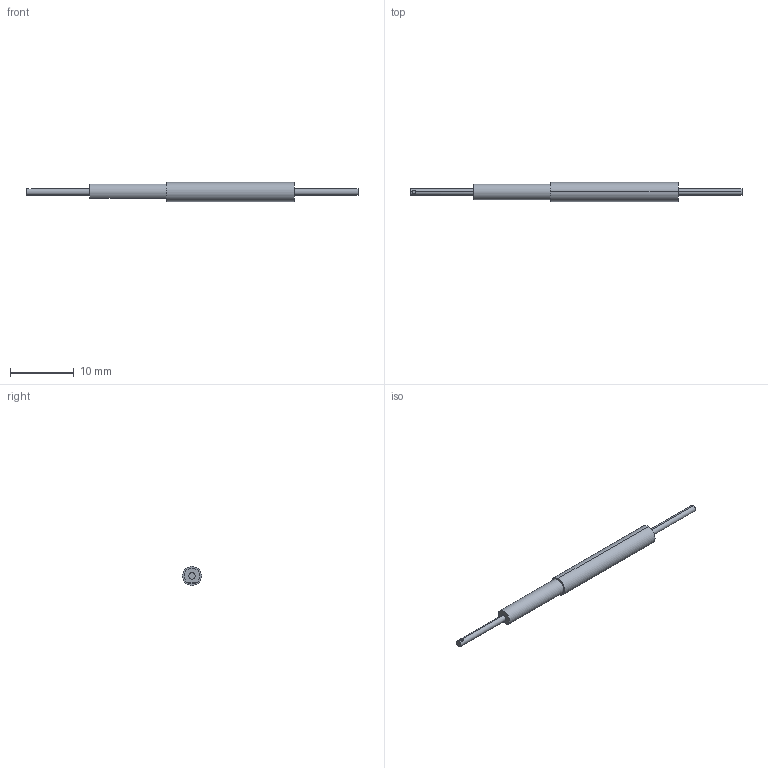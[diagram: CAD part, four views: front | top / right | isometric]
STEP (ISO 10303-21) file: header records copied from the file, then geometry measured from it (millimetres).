
FILE_DESCRIPTION (( 'STEP AP203' ), '1' );
FILE_NAME ('FT-V41.STEP', '2005-09-08T02:29:13', ( '' ), ( '' ), 'SwSTEP 2.0', 'SolidWorks 2004073', '' );
FILE_SCHEMA (( 'CONFIG_CONTROL_DESIGN' ));
Length unit declared in the file: millimetre
Products named in the file (1): FT-V41
Bounding box: 52 x 3 x 3 mm (x, y, z)
Volume: 211 mm3; surface area: 368.3 mm2
Topology: 1 solids, 1 shells, 19 faces, 40 edges, 26 vertices
Faces by surface type: cylinder 11, plane 8
Entity records: 607 total; most frequent: CARTESIAN_POINT 106, DIRECTION 96, ORIENTED_EDGE 80, EDGE_CURVE 40, AXIS2_PLACEMENT_3D 40, VERTEX_POINT 26, EDGE_LOOP 22, CIRCLE 20
